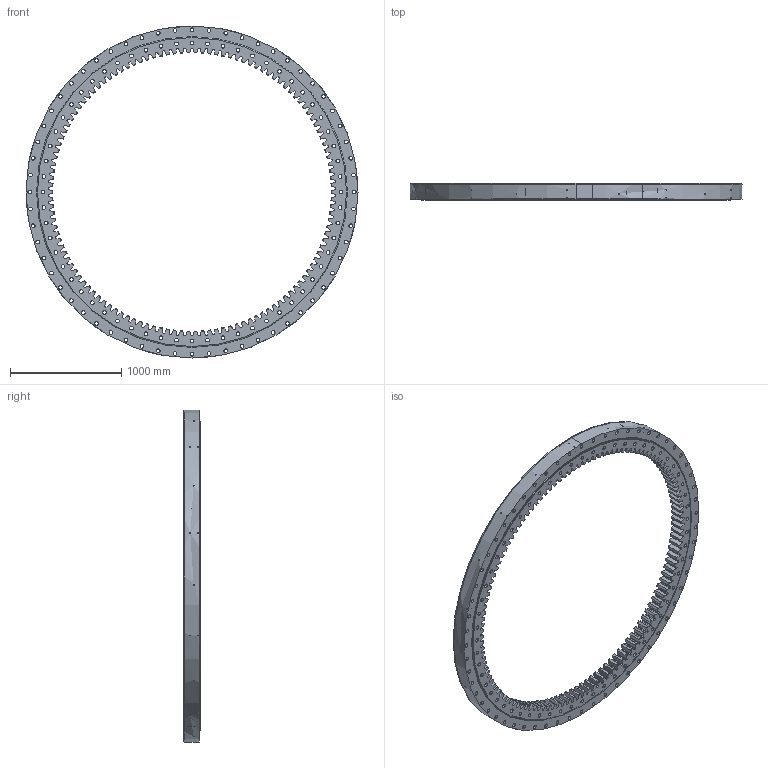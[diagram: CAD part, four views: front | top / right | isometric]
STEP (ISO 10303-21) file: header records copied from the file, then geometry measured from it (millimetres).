
FILE_DESCRIPTION (( 'STEP AP214' ), '1' );
FILE_NAME ('SM3325-1-2981AA.STEP', '2022-11-24T07:50:58', ( '' ), ( '' ), 'SwSTEP 2.0', 'SolidWorks 2020', '' );
FILE_SCHEMA (( 'AUTOMOTIVE_DESIGN' ));
Length unit declared in the file: millimetre
Products named in the file (1): SM3325-1-2981AA
Bounding box: 2981 x 150 x 2981 mm (x, y, z)
Volume: 235007756.9 mm3; surface area: 13595031.9 mm2
Topology: 5 solids, 5 shells, 1467 faces, 4158 edges, 2762 vertices
Faces by surface type: plane 605, cylinder 598, cone 264
Entity records: 55068 total; most frequent: CARTESIAN_POINT 17368, ORIENTED_EDGE 8316, DIRECTION 7188, EDGE_CURVE 4158, AXIS2_PLACEMENT_3D 2770, VERTEX_POINT 2762, EDGE_LOOP 1838, VECTOR 1648
